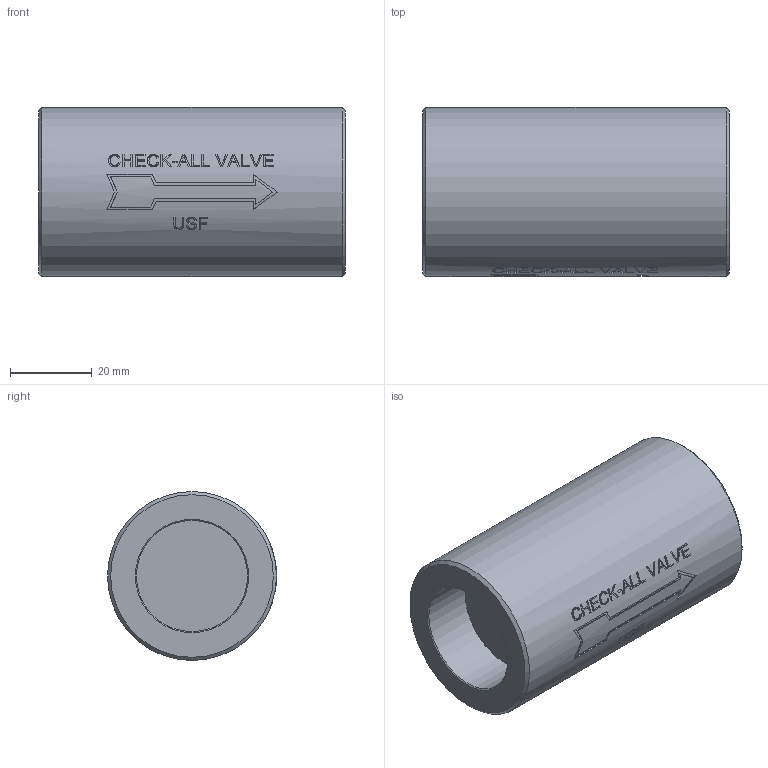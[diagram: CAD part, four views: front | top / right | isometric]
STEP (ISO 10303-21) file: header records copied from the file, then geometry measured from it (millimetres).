
FILE_DESCRIPTION( ( 'Unknown' ), '1' );
FILE_NAME( 'Y:/ENGR/3D Solid Edge Models/US/US-PRT/USF.stp', 'Unknown', ( 'Unknown' ), ( 'Unknown' ), 'PSStep 14.0', 'Unknown', ' ' );
FILE_SCHEMA( ( 'AUTOMOTIVE_DESIGN { 1 0 10303 214 1 1 1 1 }' ) );
Length unit declared in the file: inch
Products named in the file (1): 1
Bounding box: 74.96 x 41.27 x 41.27 mm (x, y, z)
Volume: 85290.9 mm3; surface area: 14546.2 mm2
Topology: 1 solids, 1 shells, 188 faces, 486 edges, 323 vertices
Faces by surface type: plane 109, bspline 51, cylinder 24, cone 4
Full cylindrical faces by diameter (mm): 27.178 x2, 41.275 x1
Entity records: 9727 total; most frequent: CARTESIAN_POINT 4713, ORIENTED_EDGE 956, EDGE_CURVE 478, B_SPLINE_CURVE_WITH_KNOTS 468, VERTEX_POINT 322, DIRECTION 296, EDGE_LOOP 218, FACE_OUTER_BOUND 191
